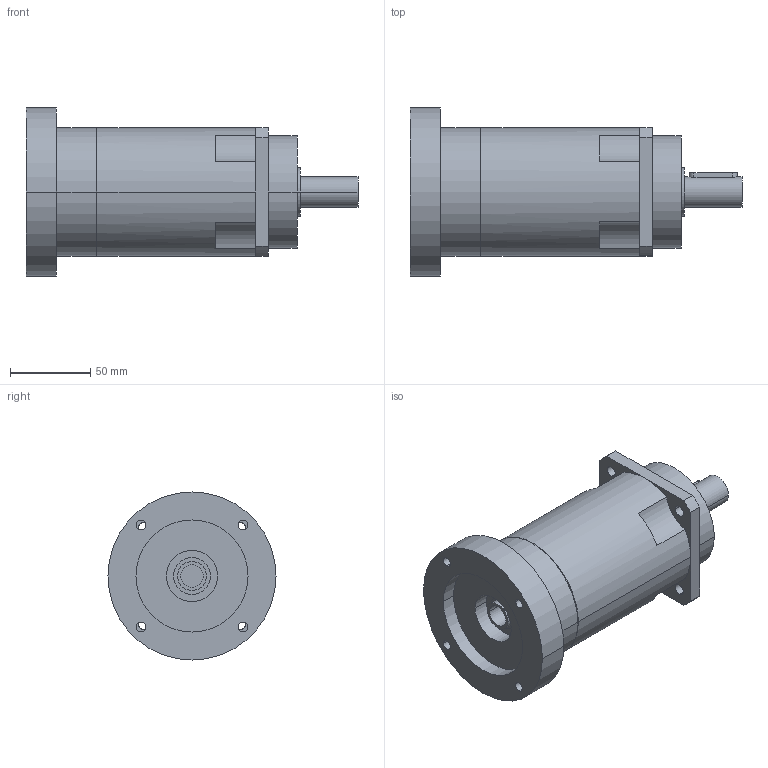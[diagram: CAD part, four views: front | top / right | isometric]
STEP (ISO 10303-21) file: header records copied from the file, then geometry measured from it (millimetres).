
FILE_DESCRIPTION(('CoCreate Modeling STEP Export'),'2;1');
FILE_NAME('GPR100_ig-48-64-80-100-120-144-180-216_19_B5_14_P14.stp','2014-08-26T11:55:08',(''),(''),'CoCreate Modeling STEP processor for AP214 (Solid Model)','CoCreate Modeling 16.00C 25-Feb-2009 (C) Parametric Technology GmbH','');
FILE_SCHEMA(('AUTOMOTIVE_DESIGN { 1 0 10303 214 1 1 1 1 }'));
Length unit declared in the file: millimetre
Products named in the file (2): GPR100_ig-48-64-80-100-120-144-180-216_19_B5_14_P14
Assembly tree (1 placements, depth 2):
  GPR100_ig-48-64-80-100-120-144-180-216_19_B5_14_P14
    GPR100_ig-48-64-80-100-120-144-180-216_19_B5_14_P14
Bounding box: 207.4 x 105 x 105 mm (x, y, z)
Volume: 863371.2 mm3; surface area: 73965.7 mm2
Topology: 1 solids, 1 shells, 95 faces, 262 edges, 182 vertices
Faces by surface type: cylinder 58, plane 31, cone 6
Entity records: 2700 total; most frequent: ORIENTED_EDGE 520, CARTESIAN_POINT 484, DIRECTION 386, EDGE_CURVE 260, VERTEX_POINT 182, AXIS2_PLACEMENT_3D 148, EDGE_LOOP 126, FACE_OUTER_BOUND 95
